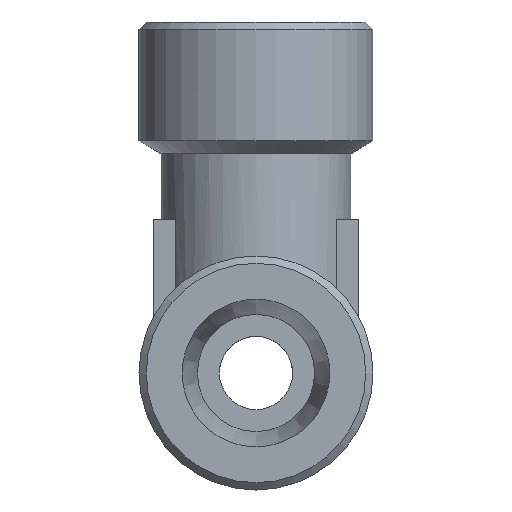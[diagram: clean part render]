
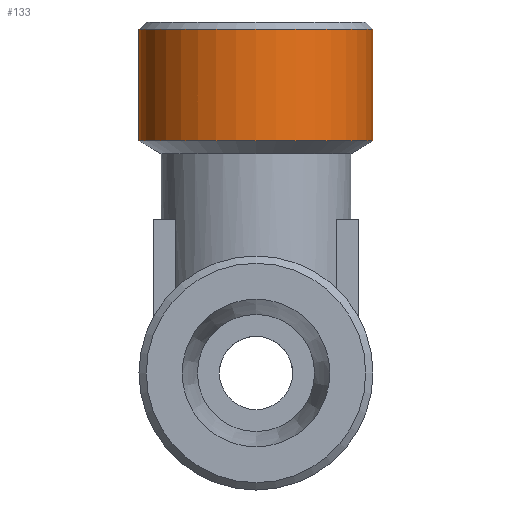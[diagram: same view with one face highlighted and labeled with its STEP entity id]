
A CAD part, left-side view. The second image highlights one B-rep face of the part: STEP entity #133.
In plain terms, the highlighted cylindrical face has radius 8 mm (diameter 16 mm), a full revolution.
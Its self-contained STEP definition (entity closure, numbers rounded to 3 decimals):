
#133 = ADVANCED_FACE( '', ( #289, #290 ), #291, .T. );
#289 = FACE_OUTER_BOUND( '', #452, .T. );
#290 = FACE_OUTER_BOUND( '', #453, .T. );
#291 = CYLINDRICAL_SURFACE( '', #454, 8. );
#452 = EDGE_LOOP( '', ( #734 ) );
#453 = EDGE_LOOP( '', ( #735 ) );
#454 = AXIS2_PLACEMENT_3D( '', #736, #737, #738 );
#734 = ORIENTED_EDGE( '', *, *, #888, .T. );
#735 = ORIENTED_EDGE( '', *, *, #906, .F. );
#736 = CARTESIAN_POINT( '', ( 0., 0., 54. ) );
#737 = DIRECTION( '', ( 0., 0., 1. ) );
#738 = DIRECTION( '', ( -1., 0., 0. ) );
#888 = EDGE_CURVE( '', #1053, #1053, #1054, .T. );
#906 = EDGE_CURVE( '', #1078, #1078, #1079, .T. );
#1053 = VERTEX_POINT( '', #1261 );
#1054 = CIRCLE( '', #1262, 8. );
#1078 = VERTEX_POINT( '', #1289 );
#1079 = CIRCLE( '', #1290, 8. );
#1261 = CARTESIAN_POINT( '', ( -8., 0., 23.5 ) );
#1262 = AXIS2_PLACEMENT_3D( '', #1431, #1432, #1433 );
#1289 = CARTESIAN_POINT( '', ( -8., 0., 15.866 ) );
#1290 = AXIS2_PLACEMENT_3D( '', #1455, #1456, #1457 );
#1431 = CARTESIAN_POINT( '', ( 0., 0., 23.5 ) );
#1432 = DIRECTION( '', ( 0., 0., -1. ) );
#1433 = DIRECTION( '', ( -1., 0., 0. ) );
#1455 = CARTESIAN_POINT( '', ( 0., 0., 15.866 ) );
#1456 = DIRECTION( '', ( 0., 0., -1. ) );
#1457 = DIRECTION( '', ( -1., 0., 0. ) );
